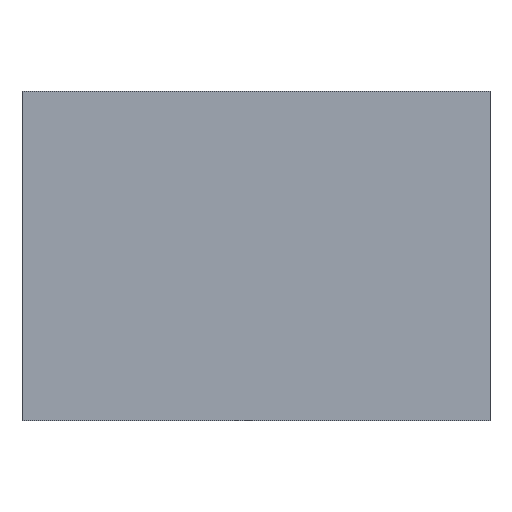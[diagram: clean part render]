
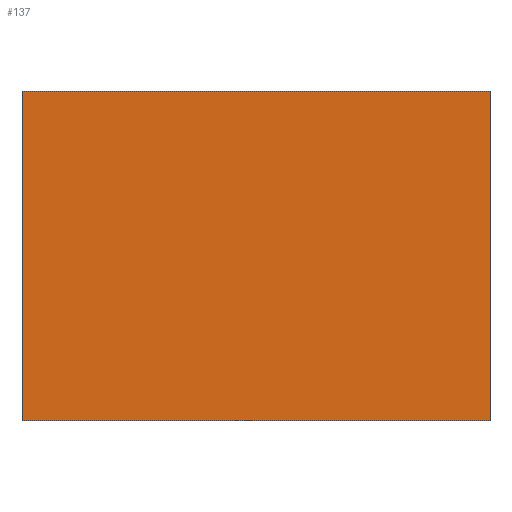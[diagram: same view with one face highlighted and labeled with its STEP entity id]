
A CAD part, front view. The second image highlights one B-rep face of the part: STEP entity #137.
In plain terms, the highlighted planar face has unit normal (0, -1, 0).
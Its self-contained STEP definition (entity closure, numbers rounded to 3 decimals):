
#21 = EDGE_CURVE('',#22,#24,#26,.T.);
#22 = VERTEX_POINT('',#23);
#23 = CARTESIAN_POINT('',(-32.,-12.,0.));
#24 = VERTEX_POINT('',#25);
#25 = CARTESIAN_POINT('',(-32.,-12.,45.));
#26 = SURFACE_CURVE('',#27,(#31,#43),.PCURVE_S1.);
#27 = LINE('',#28,#29);
#28 = CARTESIAN_POINT('',(-32.,-12.,0.));
#29 = VECTOR('',#30,1.);
#30 = DIRECTION('',(0.,0.,1.));
#31 = PCURVE('',#32,#37);
#32 = PLANE('',#33);
#33 = AXIS2_PLACEMENT_3D('',#34,#35,#36);
#34 = CARTESIAN_POINT('',(-32.,-12.,0.));
#35 = DIRECTION('',(1.,0.,0.));
#36 = DIRECTION('',(0.,0.,1.));
#37 = DEFINITIONAL_REPRESENTATION('',(#38),#42);
#38 = LINE('',#39,#40);
#39 = CARTESIAN_POINT('',(0.,0.));
#40 = VECTOR('',#41,1.);
#41 = DIRECTION('',(1.,0.));
#42 = ( GEOMETRIC_REPRESENTATION_CONTEXT(2) 
PARAMETRIC_REPRESENTATION_CONTEXT() REPRESENTATION_CONTEXT('2D SPACE',''
  ) );
#43 = PCURVE('',#44,#49);
#44 = PLANE('',#45);
#45 = AXIS2_PLACEMENT_3D('',#46,#47,#48);
#46 = CARTESIAN_POINT('',(-32.,-12.,0.));
#47 = DIRECTION('',(0.,1.,0.));
#48 = DIRECTION('',(0.,0.,1.));
#49 = DEFINITIONAL_REPRESENTATION('',(#50),#54);
#50 = LINE('',#51,#52);
#51 = CARTESIAN_POINT('',(0.,0.));
#52 = VECTOR('',#53,1.);
#53 = DIRECTION('',(1.,0.));
#54 = ( GEOMETRIC_REPRESENTATION_CONTEXT(2) 
PARAMETRIC_REPRESENTATION_CONTEXT() REPRESENTATION_CONTEXT('2D SPACE',''
  ) );
#72 = PLANE('',#73);
#73 = AXIS2_PLACEMENT_3D('',#74,#75,#76);
#74 = CARTESIAN_POINT('',(-32.,-12.,0.));
#75 = DIRECTION('',(0.,0.,1.));
#76 = DIRECTION('',(1.,0.,0.));
#126 = PLANE('',#127);
#127 = AXIS2_PLACEMENT_3D('',#128,#129,#130);
#128 = CARTESIAN_POINT('',(-32.,-12.,45.));
#129 = DIRECTION('',(0.,0.,1.));
#130 = DIRECTION('',(1.,0.,0.));
#137 = ADVANCED_FACE('',(#138),#44,.F.);
#138 = FACE_BOUND('',#139,.F.);
#139 = EDGE_LOOP('',(#140,#163,#164,#187));
#140 = ORIENTED_EDGE('',*,*,#141,.F.);
#141 = EDGE_CURVE('',#22,#142,#144,.T.);
#142 = VERTEX_POINT('',#143);
#143 = CARTESIAN_POINT('',(32.,-12.,0.));
#144 = SURFACE_CURVE('',#145,(#149,#156),.PCURVE_S1.);
#145 = LINE('',#146,#147);
#146 = CARTESIAN_POINT('',(-32.,-12.,0.));
#147 = VECTOR('',#148,1.);
#148 = DIRECTION('',(1.,0.,0.));
#149 = PCURVE('',#44,#150);
#150 = DEFINITIONAL_REPRESENTATION('',(#151),#155);
#151 = LINE('',#152,#153);
#152 = CARTESIAN_POINT('',(0.,0.));
#153 = VECTOR('',#154,1.);
#154 = DIRECTION('',(0.,1.));
#155 = ( GEOMETRIC_REPRESENTATION_CONTEXT(2) 
PARAMETRIC_REPRESENTATION_CONTEXT() REPRESENTATION_CONTEXT('2D SPACE',''
  ) );
#156 = PCURVE('',#72,#157);
#157 = DEFINITIONAL_REPRESENTATION('',(#158),#162);
#158 = LINE('',#159,#160);
#159 = CARTESIAN_POINT('',(0.,0.));
#160 = VECTOR('',#161,1.);
#161 = DIRECTION('',(1.,0.));
#162 = ( GEOMETRIC_REPRESENTATION_CONTEXT(2) 
PARAMETRIC_REPRESENTATION_CONTEXT() REPRESENTATION_CONTEXT('2D SPACE',''
  ) );
#163 = ORIENTED_EDGE('',*,*,#21,.T.);
#164 = ORIENTED_EDGE('',*,*,#165,.T.);
#165 = EDGE_CURVE('',#24,#166,#168,.T.);
#166 = VERTEX_POINT('',#167);
#167 = CARTESIAN_POINT('',(32.,-12.,45.));
#168 = SURFACE_CURVE('',#169,(#173,#180),.PCURVE_S1.);
#169 = LINE('',#170,#171);
#170 = CARTESIAN_POINT('',(-32.,-12.,45.));
#171 = VECTOR('',#172,1.);
#172 = DIRECTION('',(1.,0.,0.));
#173 = PCURVE('',#44,#174);
#174 = DEFINITIONAL_REPRESENTATION('',(#175),#179);
#175 = LINE('',#176,#177);
#176 = CARTESIAN_POINT('',(45.,0.));
#177 = VECTOR('',#178,1.);
#178 = DIRECTION('',(0.,1.));
#179 = ( GEOMETRIC_REPRESENTATION_CONTEXT(2) 
PARAMETRIC_REPRESENTATION_CONTEXT() REPRESENTATION_CONTEXT('2D SPACE',''
  ) );
#180 = PCURVE('',#126,#181);
#181 = DEFINITIONAL_REPRESENTATION('',(#182),#186);
#182 = LINE('',#183,#184);
#183 = CARTESIAN_POINT('',(0.,0.));
#184 = VECTOR('',#185,1.);
#185 = DIRECTION('',(1.,0.));
#186 = ( GEOMETRIC_REPRESENTATION_CONTEXT(2) 
PARAMETRIC_REPRESENTATION_CONTEXT() REPRESENTATION_CONTEXT('2D SPACE',''
  ) );
#187 = ORIENTED_EDGE('',*,*,#188,.F.);
#188 = EDGE_CURVE('',#142,#166,#189,.T.);
#189 = SURFACE_CURVE('',#190,(#194,#201),.PCURVE_S1.);
#190 = LINE('',#191,#192);
#191 = CARTESIAN_POINT('',(32.,-12.,0.));
#192 = VECTOR('',#193,1.);
#193 = DIRECTION('',(0.,0.,1.));
#194 = PCURVE('',#44,#195);
#195 = DEFINITIONAL_REPRESENTATION('',(#196),#200);
#196 = LINE('',#197,#198);
#197 = CARTESIAN_POINT('',(0.,64.));
#198 = VECTOR('',#199,1.);
#199 = DIRECTION('',(1.,0.));
#200 = ( GEOMETRIC_REPRESENTATION_CONTEXT(2) 
PARAMETRIC_REPRESENTATION_CONTEXT() REPRESENTATION_CONTEXT('2D SPACE',''
  ) );
#201 = PCURVE('',#202,#207);
#202 = PLANE('',#203);
#203 = AXIS2_PLACEMENT_3D('',#204,#205,#206);
#204 = CARTESIAN_POINT('',(32.,-12.,0.));
#205 = DIRECTION('',(1.,0.,0.));
#206 = DIRECTION('',(0.,0.,1.));
#207 = DEFINITIONAL_REPRESENTATION('',(#208),#212);
#208 = LINE('',#209,#210);
#209 = CARTESIAN_POINT('',(0.,0.));
#210 = VECTOR('',#211,1.);
#211 = DIRECTION('',(1.,0.));
#212 = ( GEOMETRIC_REPRESENTATION_CONTEXT(2) 
PARAMETRIC_REPRESENTATION_CONTEXT() REPRESENTATION_CONTEXT('2D SPACE',''
  ) );
